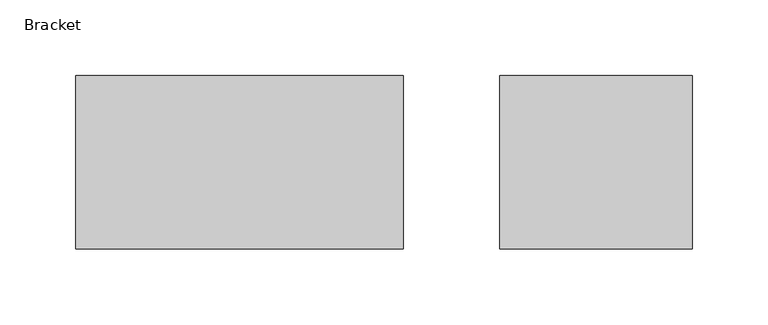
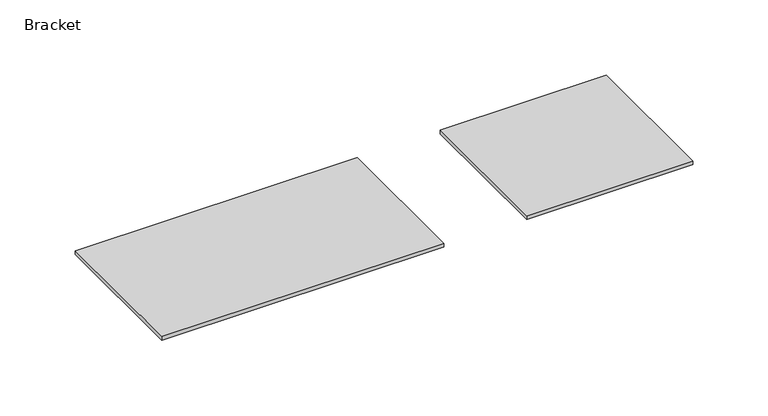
"""IFC4 building model written with IfcOpenShell, lengths in millimetres: furniture geometry, Steelcase - Answer Solution - U-Free Desk - Flush Mount Bracket : Bracket."""

import ifcopenshell
import ifcopenshell.guid

model = None  # the IFC model being written
_history = None  # IfcOwnerHistory: only IFC2X3 demands one
_inside = {}  # id of a spatial element -> (the spatial element, [elements in it])
_under = {}  # id of a project, library or spatial element -> (it, [spatial elements below it])
_declared = {}  # id of a project -> (the project, [libraries it declares])
_typed = {}  # id of a type object -> (the type object, [elements of that type])
_made_of = {}  # id of a material, layer set ... -> (it, [elements and type objects made of it])


def new_model(schema):
    """Start an empty IFC model of exactly this schema.

    Asked for "IFC4X3", IfcOpenShell would pick the latest addendum, in which some entities
    have other attributes; the version numbers below select the first issue.
    IFC2X3 requires an IfcOwnerHistory on every rooted entity: one is made here for all.
    """
    global model, _history
    if schema == "IFC4X3":
        model = ifcopenshell.file(schema_version=(4, 3, 0, 0))
    else:
        model = ifcopenshell.file(schema=schema)
    _inside.clear()
    _under.clear()
    _declared.clear()
    _typed.clear()
    _made_of.clear()
    _history = None
    if model.schema == "IFC2X3":
        org = make("IfcOrganization", Name="unknown")
        user = make(
            "IfcPersonAndOrganization",
            ThePerson=make("IfcPerson", FamilyName="unknown"),
            TheOrganization=org,
        )
        app = make(
            "IfcApplication",
            ApplicationDeveloper=org,
            Version="unknown",
            ApplicationFullName="unknown",
            ApplicationIdentifier="unknown",
        )
        _history = make(
            "IfcOwnerHistory",
            OwningUser=user,
            OwningApplication=app,
            ChangeAction="ADDED",
            CreationDate=0,
        )
    return model


def make(cls, **values):
    """One entity of the class cls with the attributes given. An attribute that is None is left unset."""
    return model.create_entity(
        cls, **{name: value for name, value in values.items() if value is not None}
    )


def rooted(cls, **values):
    """An entity with a GlobalId (a new one), such as an element, a storey or a relation."""
    return make(cls, GlobalId=ifcopenshell.guid.new(), OwnerHistory=_history, **values)


def si_unit(unit_type, name, prefix=None):
    """IfcSIUnit, for example si_unit("LENGTHUNIT", "METRE", prefix="MILLI")."""
    return make("IfcSIUnit", UnitType=unit_type, Prefix=prefix, Name=name)


def assignment(units):
    """IfcUnitAssignment: the units of a project."""
    return None if units is None else make("IfcUnitAssignment", Units=units)


def point(xyz):
    """IfcCartesianPoint."""
    return None if xyz is None else make("IfcCartesianPoint", Coordinates=xyz)


def direction(xyz):
    """IfcDirection."""
    return None if xyz is None else make("IfcDirection", DirectionRatios=xyz)


def frame(location, z_axis=None, x_axis=None):
    """IfcAxis2Placement3D, a coordinate frame: its origin and axes. An axis left out is left unset."""
    return make(
        "IfcAxis2Placement3D",
        Location=point(location),
        Axis=direction(z_axis),
        RefDirection=direction(x_axis),
    )


def origin():
    """The frame at (0, 0, 0) with its axes left unset."""
    return frame((0.0, 0.0, 0.0))


def place(relative_to, where):
    """IfcLocalPlacement: puts the frame where relative to a parent placement (None: the world)."""
    return make(
        "IfcLocalPlacement", PlacementRelTo=relative_to, RelativePlacement=where
    )


def context(
    kind, dimensions, precision=None, world=None, true_north=None, identifier=None
):
    """IfcGeometricRepresentationContext, for example the 3D "Model" context."""
    return make(
        "IfcGeometricRepresentationContext",
        ContextIdentifier=identifier,
        ContextType=kind,
        CoordinateSpaceDimension=dimensions,
        Precision=precision,
        WorldCoordinateSystem=world,
        TrueNorth=true_north,
    )


def project(units=None, contexts=None):
    """IfcProject with its units and contexts."""
    return rooted(
        "IfcProject",
        Name="project",
        RepresentationContexts=contexts,
        UnitsInContext=assignment(units),
    )


def spatial(cls, under=None, at=None, **own):
    """A site, building, storey or space (cls), placed at a placement, below another one or the project."""
    s = rooted(cls, ObjectPlacement=at, **own)
    if under is not None:
        _under.setdefault(under.id(), (under, []))[1].append(s)
    return s


def polyline(points):
    """IfcPolyline through the points."""
    return make("IfcPolyline", Points=[point(p) for p in points])


def outline(outer, holes=None, kind="AREA"):
    """IfcArbitraryClosedProfileDef: a profile drawn as a closed curve; with holes, ...WithVoids."""
    if holes is None:
        return make("IfcArbitraryClosedProfileDef", ProfileType=kind, OuterCurve=outer)
    return make(
        "IfcArbitraryProfileDefWithVoids",
        ProfileType=kind,
        OuterCurve=outer,
        InnerCurves=holes,
    )


def extrude(swept, where, along, depth):
    """IfcExtrudedAreaSolid: the profile swept, set in the frame where, extruded along a direction by depth."""
    return make(
        "IfcExtrudedAreaSolid",
        SweptArea=swept,
        Position=where,
        ExtrudedDirection=direction(along),
        Depth=depth,
    )


def shape(context_of_items, identifier, shape_type, items):
    """IfcShapeRepresentation: the items that make up one representation, for example the "Body"."""
    return make(
        "IfcShapeRepresentation",
        ContextOfItems=context_of_items,
        RepresentationIdentifier=identifier,
        RepresentationType=shape_type,
        Items=items,
    )


def source(mapping_origin, context_of_items, identifier, shape_type, items):
    """IfcRepresentationMap: a shape defined once, which mapped items show again and again."""
    return make(
        "IfcRepresentationMap",
        MappingOrigin=mapping_origin,
        MappedRepresentation=shape(context_of_items, identifier, shape_type, items),
    )


def transform(
    local_origin,
    x_axis=None,
    y_axis=None,
    z_axis=None,
    scale=None,
    scale2=None,
    scale3=None,
    uniform=True,
):
    """IfcCartesianTransformationOperator3D, or its non-uniform kind. x_axis, y_axis, z_axis: its Axis1, 2, 3."""
    if uniform:
        return make(
            "IfcCartesianTransformationOperator3D",
            Axis1=direction(x_axis),
            Axis2=direction(y_axis),
            LocalOrigin=point(local_origin),
            Scale=scale,
            Axis3=direction(z_axis),
        )
    return make(
        "IfcCartesianTransformationOperator3DnonUniform",
        Axis1=direction(x_axis),
        Axis2=direction(y_axis),
        LocalOrigin=point(local_origin),
        Scale=scale,
        Axis3=direction(z_axis),
        Scale2=scale2,
        Scale3=scale3,
    )


def mapped(mapping_source, mapping_target):
    """IfcMappedItem: shows the shape of a source again, moved by a transform."""
    return make(
        "IfcMappedItem", MappingSource=mapping_source, MappingTarget=mapping_target
    )


def made_of(thing, what):
    """Note that an element or type object is made of a material, layer set ...; save() writes the relation."""
    if what is not None:
        _made_of.setdefault(what.id(), (what, []))[1].append(thing)
    return thing


def element(
    cls,
    number,
    at=None,
    inside=None,
    cuts=None,
    type_object=None,
    material=None,
    context=None,
    identifier="Body",
    shape_type=None,
    held_by="IfcProductDefinitionShape",
    body=None,
    shapes=None,
    **own,
):
    """One element of the class cls, such as IfcWall. Its Tag is "e" and its number.

    at: its placement. inside: the storey or other place that contains it. cuts: it is an
    opening in that element (IfcRelVoidsElement). A single representation is given by context,
    identifier, shape_type and body (its items); several are given by shapes. held_by: the class
    of the entity that holds the representations. save() writes the other relations.
    """
    e = rooted(cls, Tag="e%d" % number, ObjectPlacement=at, **own)
    if body is not None:
        shapes = [shape(context, identifier, shape_type, body)]
    if shapes is not None:
        e.Representation = make(held_by, Representations=shapes)
    if inside is not None:
        _inside.setdefault(inside.id(), (inside, []))[1].append(e)
    if cuts is not None:
        rooted(
            "IfcRelVoidsElement", RelatingBuildingElement=cuts, RelatedOpeningElement=e
        )
    if type_object is not None:
        _typed.setdefault(type_object.id(), (type_object, []))[1].append(e)
    return made_of(e, material)


def aggregate(whole, parts):
    """IfcRelAggregates: a whole, such as a stair, and the parts it consists of."""
    return rooted("IfcRelAggregates", RelatingObject=whole, RelatedObjects=parts)


def save(model, path):
    """Write the relations noted so far, then the file.

    IfcRelAggregates (storeys below a building ...), IfcRelContainedInSpatialStructure (elements
    in a storey), IfcRelDefinesByType, IfcRelAssociatesMaterial and IfcRelDeclares: one each for
    every whole, place, type object, material and project.
    """
    for whole, parts in _under.values():
        aggregate(whole, parts)
    for where, things in _inside.values():
        rooted(
            "IfcRelContainedInSpatialStructure",
            RelatedElements=things,
            RelatingStructure=where,
        )
    for kind, things in _typed.values():
        rooted("IfcRelDefinesByType", RelatedObjects=things, RelatingType=kind)
    for what, things in _made_of.values():
        rooted("IfcRelAssociatesMaterial", RelatedObjects=things, RelatingMaterial=what)
    for by, libraries in _declared.values():
        rooted("IfcRelDeclares", RelatingContext=by, RelatedDefinitions=libraries)
    model.write(path)


def bracket_7c94740e(model_context):
    return source(origin(), model_context, "Body", "SweptSolid", [
        extrude(outline(polyline([(107.9499992, 57.1626991), (107.9499992, -57.1626991), (-107.9499992, -57.1626991), (-107.9499992, 57.1626991), (107.9499992, 57.1626991)])), frame((0.0, 0.0, 692.3277992), z_axis=(0.0, 0.0, 1.0), x_axis=(1.0, 0.0, 0.0)), (0.0, 0.0, 1.0), 2.9972008),
        extrude(outline(polyline([(298.4499992, 57.1626991), (298.4499992, -57.1626991), (171.4500114, -57.1626991), (171.4500114, 57.1626991), (298.4499992, 57.1626991)])), frame((0.0, 0.0, 692.3277992), z_axis=(0.0, 0.0, 1.0), x_axis=(1.0, 0.0, 0.0)), (0.0, 0.0, 1.0), 2.9972008),
    ])


if __name__ == "__main__":
    model = new_model("IFC4")
    model_context = context("Model", 3, world=origin())
    ifc_project = project(units=[si_unit("LENGTHUNIT", "METRE", prefix="MILLI")], contexts=[model_context])
    site = spatial("IfcSite", under=ifc_project)
    building = spatial("IfcBuilding", under=site)
    placement = place(None, origin())
    bracket_shape = bracket_7c94740e(model_context)
    element("IfcFurniture", 1, ObjectType="Steelcase - Answer Solution - U-Free Desk - Flush Mount Bracket : Bracket", at=placement, inside=building, context=model_context, shape_type="MappedRepresentation", body=[
        mapped(bracket_shape, transform((0.0, 0.0, 0.0), x_axis=(1.0, 0.0, 0.0), y_axis=(0.0, 1.0, 0.0), z_axis=(0.0, 0.0, 1.0))),
    ])
    save(model, "model.ifc")
